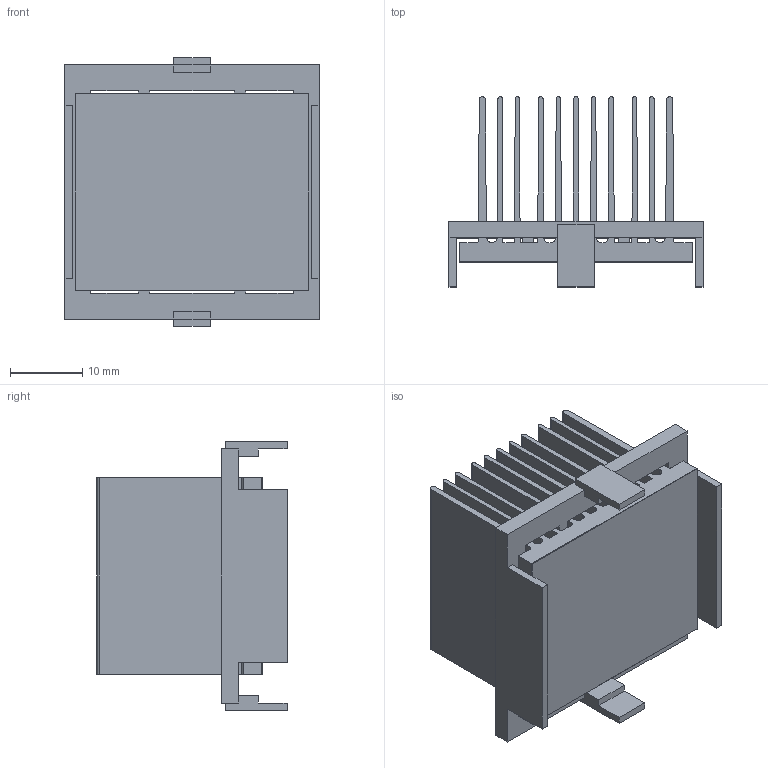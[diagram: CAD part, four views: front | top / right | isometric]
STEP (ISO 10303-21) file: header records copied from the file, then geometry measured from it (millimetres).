
FILE_DESCRIPTION (( 'STEP AP214' ), '1' );
FILE_NAME ('INH33001-23-2.6Y.STEP', '2023-02-17T18:16:47', ( '' ), ( '' ), 'SwSTEP 2.0', 'SolidWorks 2020', '' );
FILE_SCHEMA (( 'AUTOMOTIVE_DESIGN' ));
Length unit declared in the file: millimetre
Products named in the file (1): INH33001-23-2.6Y
Bounding box: 35.2 x 26.36 x 37.2 mm (x, y, z)
Volume: 8618 mm3; surface area: 18596.7 mm2
Topology: 3 solids, 3 shells, 130 faces, 372 edges, 248 vertices
Faces by surface type: plane 101, cylinder 29
Entity records: 5700 total; most frequent: CARTESIAN_POINT 751, ORIENTED_EDGE 744, DIRECTION 692, EDGE_CURVE 372, VECTOR 314, LINE 314, VERTEX_POINT 248, AXIS2_PLACEMENT_3D 189
